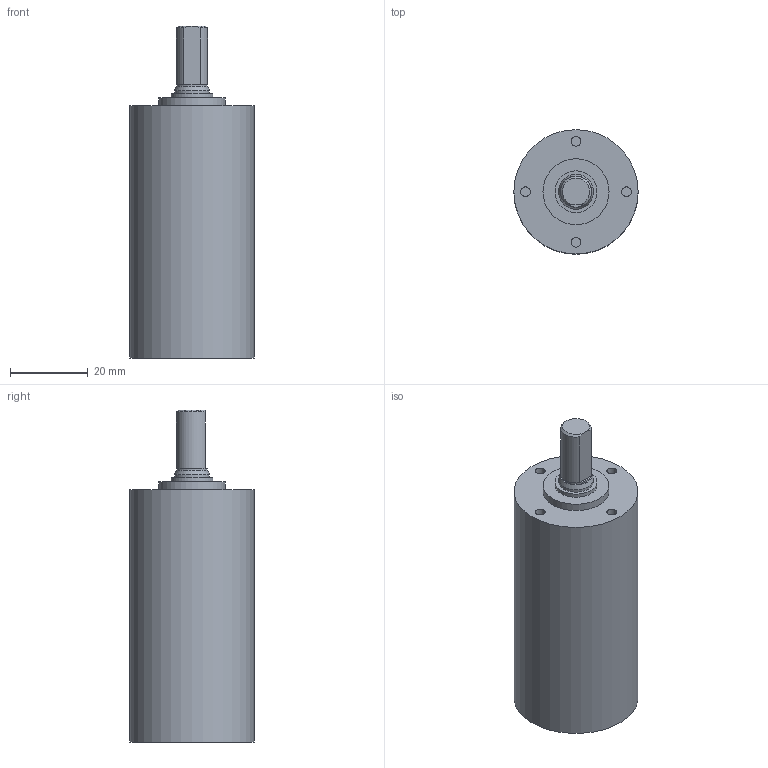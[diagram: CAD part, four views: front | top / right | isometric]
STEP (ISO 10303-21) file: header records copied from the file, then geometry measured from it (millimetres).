
FILE_DESCRIPTION(/* description */ (''),/* implementation_level */ '2;1');
FILE_NAME(/* name */ '32-3_5.stp',/* time_stamp */ '2016-09-07T14:20:54+02:00',/* author */ ('DR. FRITZ FAULHABER GmbH & Co. KG'),/* organization */ ('DR. FRITZ FAULHABER GmbH & Co. KG'),/* preprocessor_version */ 'ST-DEVELOPER v16',/* originating_system */ 'SIEMENS PLM Software NX 10.0',/* authorisation */ '');
FILE_SCHEMA (('AUTOMOTIVE_DESIGN { 1 0 10303 214 3 1 1 1 }'));
Length unit declared in the file: millimetre
Products named in the file (1): H00000650_A
Bounding box: 32 x 32 x 85.5 mm (x, y, z)
Volume: 45561.7 mm3; surface area: 10117.5 mm2
Topology: 1 solids, 1 shells, 39 faces, 87 edges, 70 vertices
Faces by surface type: plane 19, cylinder 17, cone 3
Full cylindrical faces by diameter (mm): 2.5 x4, 4 x1, 7.9 x1, 9 x1, 10.8 x1, 11.8 x1, 12.2 x1, 17 x1, 26.9 x1, 27.57 x1, 30 x1, 30.459 x1, 32 x1
Entity records: 1021 total; most frequent: DIRECTION 191, CARTESIAN_POINT 151, ORIENTED_EDGE 90, AXIS2_PLACEMENT_3D 90, EDGE_LOOP 71, FACE_BOUND 62, CIRCLE 50, EDGE_CURVE 45
